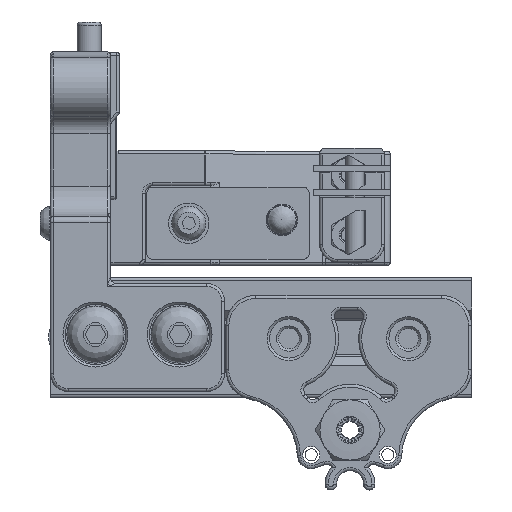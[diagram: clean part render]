
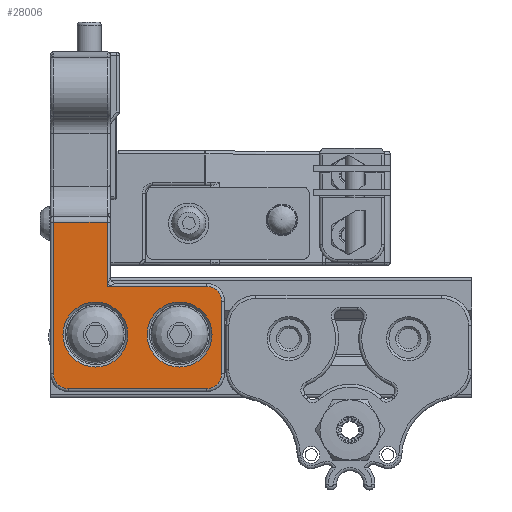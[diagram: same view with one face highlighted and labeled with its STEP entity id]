
A CAD part, top view. The second image highlights one B-rep face of the part: STEP entity #28006.
In plain terms, the highlighted planar face has unit normal (0, 0, 1).
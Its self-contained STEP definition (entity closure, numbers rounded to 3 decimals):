
#778=FACE_BOUND('',#9095,.T.);
#779=FACE_BOUND('',#9096,.T.);
#2107=PLANE('',#30774);
#3230=LINE('',#90394,#4888);
#3232=LINE('',#90406,#4890);
#3235=LINE('',#90422,#4893);
#3338=LINE('',#91300,#4996);
#3339=LINE('',#91302,#4997);
#3340=LINE('',#91303,#4998);
#4888=VECTOR('',#36064,10.);
#4890=VECTOR('',#36078,10.);
#4893=VECTOR('',#36099,10.);
#4996=VECTOR('',#36494,10.);
#4997=VECTOR('',#36495,1.);
#4998=VECTOR('',#36496,10.);
#7337=FACE_OUTER_BOUND('',#9094,.T.);
#9094=EDGE_LOOP('',(#23304,#23305,#23306,#23307,#23308,#23309,#23310,#23311,
#23312));
#9095=EDGE_LOOP('',(#23313));
#9096=EDGE_LOOP('',(#23314));
#10567=CIRCLE('',#30618,2.5);
#10569=CIRCLE('',#30622,2.5);
#10570=CIRCLE('',#30624,5.4);
#10571=CIRCLE('',#30626,5.4);
#10606=CIRCLE('',#30680,2.5);
#12967=VERTEX_POINT('',#90391);
#12968=VERTEX_POINT('',#90393);
#12970=VERTEX_POINT('',#90399);
#12971=VERTEX_POINT('',#90401);
#12972=VERTEX_POINT('',#90405);
#12973=VERTEX_POINT('',#90411);
#12974=VERTEX_POINT('',#90415);
#12975=VERTEX_POINT('',#90419);
#13007=VERTEX_POINT('',#90601);
#13093=VERTEX_POINT('',#91299);
#13094=VERTEX_POINT('',#91301);
#16465=EDGE_CURVE('',#12967,#12968,#3230,.T.);
#16470=EDGE_CURVE('',#12971,#12970,#10567,.T.);
#16471=EDGE_CURVE('',#12970,#12972,#3232,.T.);
#16473=EDGE_CURVE('',#12972,#12967,#10569,.T.);
#16474=EDGE_CURVE('',#12973,#12973,#10570,.T.);
#16476=EDGE_CURVE('',#12974,#12974,#10571,.T.);
#16479=EDGE_CURVE('',#12975,#12971,#3235,.T.);
#16534=EDGE_CURVE('',#12968,#13007,#10606,.T.);
#16685=EDGE_CURVE('',#13093,#12975,#3338,.T.);
#16686=EDGE_CURVE('',#13094,#13093,#3339,.T.);
#16687=EDGE_CURVE('',#13007,#13094,#3340,.T.);
#23304=ORIENTED_EDGE('',*,*,#16473,.F.);
#23305=ORIENTED_EDGE('',*,*,#16471,.F.);
#23306=ORIENTED_EDGE('',*,*,#16470,.F.);
#23307=ORIENTED_EDGE('',*,*,#16479,.F.);
#23308=ORIENTED_EDGE('',*,*,#16685,.F.);
#23309=ORIENTED_EDGE('',*,*,#16686,.F.);
#23310=ORIENTED_EDGE('',*,*,#16687,.F.);
#23311=ORIENTED_EDGE('',*,*,#16534,.F.);
#23312=ORIENTED_EDGE('',*,*,#16465,.F.);
#23313=ORIENTED_EDGE('',*,*,#16476,.F.);
#23314=ORIENTED_EDGE('',*,*,#16474,.F.);
#28006=ADVANCED_FACE('',(#7337,#778,#779),#2107,.F.);
#30618=AXIS2_PLACEMENT_3D('',#90403,#36074,#36075);
#30622=AXIS2_PLACEMENT_3D('',#90409,#36083,#36084);
#30624=AXIS2_PLACEMENT_3D('',#90412,#36087,#36088);
#30626=AXIS2_PLACEMENT_3D('',#90416,#36092,#36093);
#30680=AXIS2_PLACEMENT_3D('',#90604,#36219,#36220);
#30774=AXIS2_PLACEMENT_3D('',#91298,#36492,#36493);
#36064=DIRECTION('',(-1.,0.,0.));
#36074=DIRECTION('center_axis',(0.,0.,
-1.));
#36075=DIRECTION('ref_axis',(0.707,0.707,0.));
#36078=DIRECTION('',(0.,-1.,0.));
#36083=DIRECTION('center_axis',(0.,0.,
-1.));
#36084=DIRECTION('ref_axis',(0.881,-0.473,0.));
#36087=DIRECTION('center_axis',(0.,0.,
1.));
#36088=DIRECTION('ref_axis',(-1.,0.,0.));
#36092=DIRECTION('center_axis',(0.,0.,
1.));
#36093=DIRECTION('ref_axis',(-1.,0.,0.));
#36099=DIRECTION('',(1.,0.,0.));
#36219=DIRECTION('center_axis',(0.,0.,
-1.));
#36220=DIRECTION('ref_axis',(-0.473,-0.881,0.));
#36492=DIRECTION('center_axis',(0.,0.,
-1.));
#36493=DIRECTION('ref_axis',(0.,-1.,0.));
#36494=DIRECTION('',(0.,-1.,0.));
#36495=DIRECTION('',(1.,0.,0.));
#36496=DIRECTION('',(0.,1.,0.));
#90391=CARTESIAN_POINT('',(-8.718,28.852,34.65));
#90393=CARTESIAN_POINT('',(-31.678,28.852,34.65));
#90394=CARTESIAN_POINT('',(-15.218,28.852,34.65));
#90399=CARTESIAN_POINT('',(-6.218,43.352,34.65));
#90401=CARTESIAN_POINT('',(-8.718,45.852,34.65));
#90403=CARTESIAN_POINT('Origin',(-8.718,43.352,34.65));
#90405=CARTESIAN_POINT('',(-6.218,31.352,34.65));
#90406=CARTESIAN_POINT('',(-6.218,52.436,34.65));
#90409=CARTESIAN_POINT('Origin',(-8.718,31.352,34.65));
#90411=CARTESIAN_POINT('',(-21.788,37.852,34.65));
#90412=CARTESIAN_POINT('Origin',(-27.188,37.852,34.65));
#90415=CARTESIAN_POINT('',(-7.808,37.852,34.65));
#90416=CARTESIAN_POINT('Origin',(-13.208,37.852,34.65));
#90419=CARTESIAN_POINT('',(-25.218,45.852,34.65));
#90422=CARTESIAN_POINT('',(-24.968,45.852,34.65));
#90601=CARTESIAN_POINT('',(-34.178,31.352,34.65));
#90604=CARTESIAN_POINT('Origin',(-31.678,31.352,34.65));
#91298=CARTESIAN_POINT('Origin',(-24.718,57.52,34.65));
#91299=CARTESIAN_POINT('',(-25.218,56.52,34.65));
#91300=CARTESIAN_POINT('',(-25.218,49.061,34.65));
#91301=CARTESIAN_POINT('',(-34.178,56.52,34.65));
#91302=CARTESIAN_POINT('',(-23.961,56.52,34.65));
#91303=CARTESIAN_POINT('',(-34.178,64.751,34.65));
